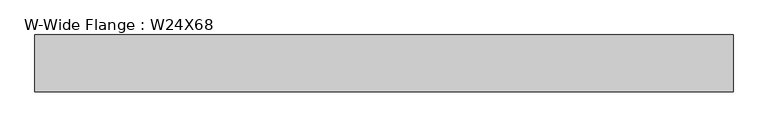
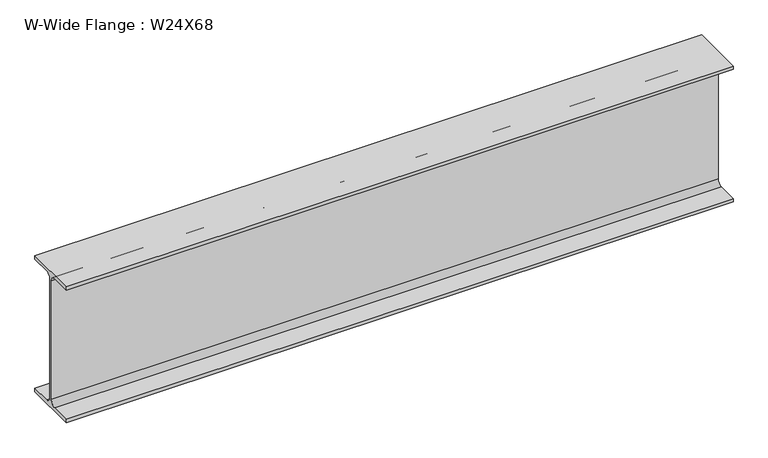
"""IFC4 building model written with IfcOpenShell, lengths in millimetres: beam geometry, W-Wide Flange : W24X68."""

from ifc_helpers import new_model, si_unit, point, frame, frame_2d, origin, place, context, project, spatial, polyline, circle_curve, trimmed, segment, composite_curve, outline, extrude, source, transform, mapped, element, save


def w_wide_flange_w24x68_473e50b6(model_context):
    return source(origin(), model_context, "Body", "SweptSolid", [
        extrude(outline(composite_curve([segment(polyline([(113.919, -286.131), (113.919, -300.99), (-113.919, -300.99), (-113.919, -286.131), (-28.5115, -286.131)]), True, "CONTINUOUS"), segment(trimmed(circle_curve(frame_2d((-28.5115, -262.89)), 23.241), [point((-28.5115, -286.131))], [point((-5.2705, -262.89))], True, "CARTESIAN"), True, "CONTINUOUS"), segment(polyline([(-5.2705, -262.89), (-5.2705, 262.89)]), True, "CONTINUOUS"), segment(trimmed(circle_curve(frame_2d((-28.5115, 262.89)), 23.241), [point((-5.2705, 262.89))], [point((-28.5115, 286.131))], True, "CARTESIAN"), True, "CONTINUOUS"), segment(polyline([(-28.5115, 286.131), (-113.919, 286.131), (-113.919, 300.99), (113.919, 300.99), (113.919, 286.131), (28.5115, 286.131)]), True, "CONTINUOUS"), segment(trimmed(circle_curve(frame_2d((28.5115, 262.89)), 23.241), [point((28.5115, 286.131))], [point((5.2705, 262.89))], True, "CARTESIAN"), True, "CONTINUOUS"), segment(polyline([(5.2705, 262.89), (5.2705, -262.89)]), True, "CONTINUOUS"), segment(trimmed(circle_curve(frame_2d((28.5115, -262.89)), 23.241), [point((5.2705, -262.89))], [point((28.5115, -286.131))], True, "CARTESIAN"), True, "CONTINUOUS"), segment(polyline([(28.5115, -286.131), (113.919, -286.131)]), True, "CONTINUOUS")], self_intersect=False)), frame((-1420.0496598, 0.0, 0.0), z_axis=(1.0, 0.0, 0.0), x_axis=(0.0, 1.0, 0.0)), (0.0, 0.0, 1.0), 2793.9626009),
    ])


if __name__ == "__main__":
    model = new_model("IFC4")
    model_context = context("Model", 3, world=origin())
    ifc_project = project(units=[si_unit("LENGTHUNIT", "METRE", prefix="MILLI")], contexts=[model_context])
    site = spatial("IfcSite", under=ifc_project)
    building = spatial("IfcBuilding", under=site)
    placement = place(None, origin())
    w_wide_flange_w24x68_shape = w_wide_flange_w24x68_473e50b6(model_context)
    element("IfcBeam", 1, ObjectType="W-Wide Flange : W24X68", at=placement, inside=building, context=model_context, shape_type="MappedRepresentation", body=[
        mapped(w_wide_flange_w24x68_shape, transform((0.0, 0.0, 0.0), x_axis=(1.0, 0.0, 0.0), y_axis=(0.0, 1.0, 0.0), z_axis=(0.0, 0.0, 1.0))),
    ])
    save(model, "model.ifc")
